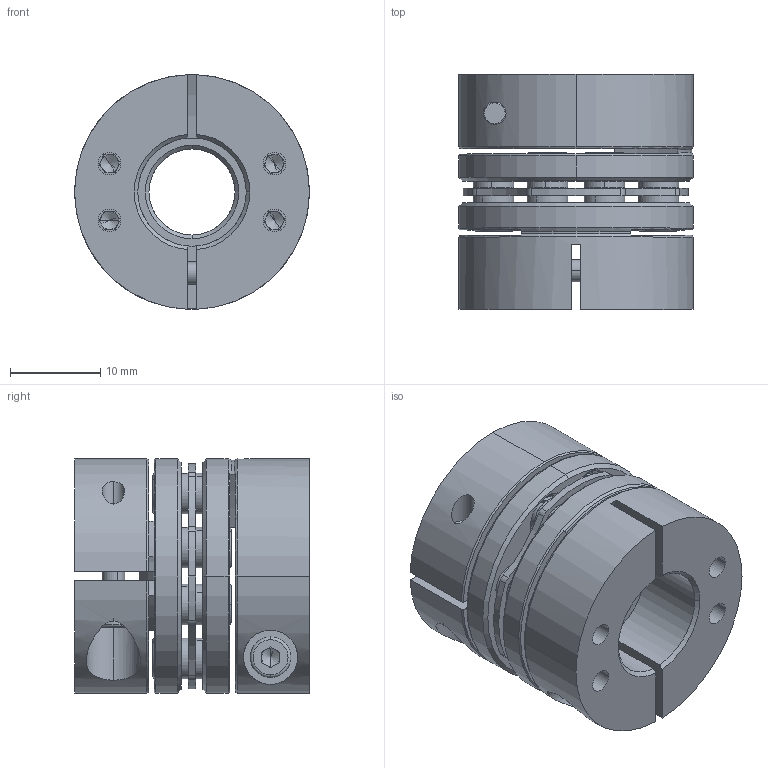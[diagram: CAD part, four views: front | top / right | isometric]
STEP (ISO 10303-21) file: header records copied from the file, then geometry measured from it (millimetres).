
FILE_DESCRIPTION (( 'STEP AP203' ), '1' );
FILE_NAME ('LDG-D26-9.525-12.STEP', '2021-10-28T04:29:35', ( '' ), ( '' ), 'SwSTEP 2.0', 'SolidWorks 2018', '' );
FILE_SCHEMA (( 'CONFIG_CONTROL_DESIGN' ));
Length unit declared in the file: millimetre
Products named in the file (2): 錨璃2^LDG-D26蚾饜芞1; LDG-D26-9.525-12
Assembly tree (1 placements, depth 2):
  LDG-D26-9.525-12
    錨璃2^LDG-D26蚾饜芞1
Bounding box: 26 x 26 x 26 mm (x, y, z)
Volume: 9229.7 mm3; surface area: 8831.8 mm2
Topology: 1 solids, 21 shells, 765 faces, 1872 edges, 1159 vertices
Faces by surface type: cylinder 301, plane 244, cone 200, torus 20
Entity records: 23057 total; most frequent: DIRECTION 4281, CARTESIAN_POINT 4164, ORIENTED_EDGE 3688, EDGE_CURVE 1844, AXIS2_PLACEMENT_3D 1740, VERTEX_POINT 1159, CIRCLE 971, EDGE_LOOP 909
